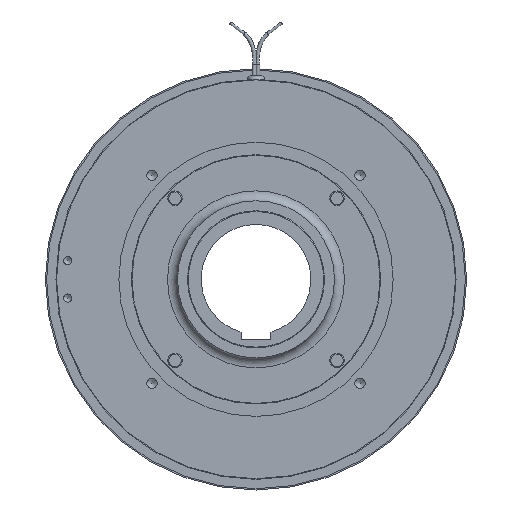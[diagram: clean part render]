
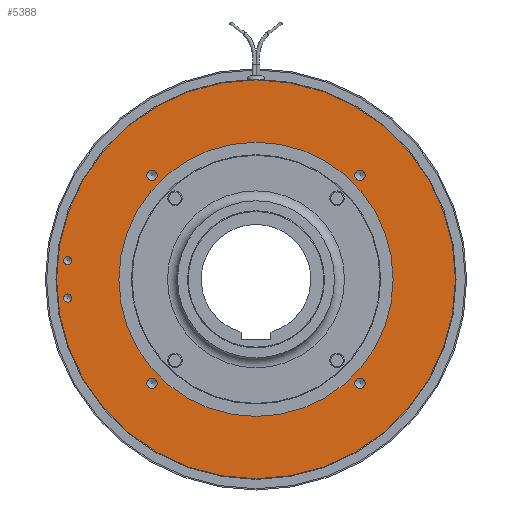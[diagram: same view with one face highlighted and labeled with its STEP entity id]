
A CAD part, left-side view. The second image highlights one B-rep face of the part: STEP entity #5388.
In plain terms, the highlighted planar face has unit normal (-1, 0, 0).
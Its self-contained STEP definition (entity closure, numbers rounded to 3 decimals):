
#876=FACE_BOUND('',#1525,.T.);
#877=FACE_BOUND('',#1526,.T.);
#878=FACE_BOUND('',#1527,.T.);
#879=FACE_BOUND('',#1528,.T.);
#880=FACE_BOUND('',#1529,.T.);
#881=FACE_BOUND('',#1530,.T.);
#882=FACE_BOUND('',#1531,.T.);
#1144=FACE_OUTER_BOUND('',#1524,.T.);
#1524=EDGE_LOOP('',(#4827,#4828,#4829));
#1525=EDGE_LOOP('',(#4830,#4831));
#1526=EDGE_LOOP('',(#4832,#4833));
#1527=EDGE_LOOP('',(#4834,#4835));
#1528=EDGE_LOOP('',(#4836,#4837));
#1529=EDGE_LOOP('',(#4838,#4839));
#1530=EDGE_LOOP('',(#4840,#4841));
#1531=EDGE_LOOP('',(#4842,#4843));
#1986=CIRCLE('',#6113,80.);
#1987=CIRCLE('',#6114,80.);
#1988=CIRCLE('',#6116,80.);
#2004=CIRCLE('',#6139,55.);
#2005=CIRCLE('',#6140,55.);
#2006=CIRCLE('',#6142,1.621);
#2007=CIRCLE('',#6143,1.621);
#2008=CIRCLE('',#6144,1.621);
#2009=CIRCLE('',#6145,1.621);
#2010=CIRCLE('',#6146,2.067);
#2011=CIRCLE('',#6147,2.067);
#2012=CIRCLE('',#6148,2.067);
#2013=CIRCLE('',#6149,2.067);
#2014=CIRCLE('',#6150,2.067);
#2015=CIRCLE('',#6151,2.067);
#2016=CIRCLE('',#6152,2.067);
#2017=CIRCLE('',#6153,2.067);
#2540=VERTEX_POINT('',#9663);
#2541=VERTEX_POINT('',#9665);
#2542=VERTEX_POINT('',#9667);
#2560=VERTEX_POINT('',#9753);
#2561=VERTEX_POINT('',#9754);
#2562=VERTEX_POINT('',#9759);
#2563=VERTEX_POINT('',#9760);
#2564=VERTEX_POINT('',#9763);
#2565=VERTEX_POINT('',#9764);
#2566=VERTEX_POINT('',#9767);
#2567=VERTEX_POINT('',#9768);
#2568=VERTEX_POINT('',#9771);
#2569=VERTEX_POINT('',#9772);
#2570=VERTEX_POINT('',#9775);
#2571=VERTEX_POINT('',#9776);
#2572=VERTEX_POINT('',#9779);
#2573=VERTEX_POINT('',#9780);
#3300=EDGE_CURVE('',#2541,#2540,#1986,.T.);
#3301=EDGE_CURVE('',#2542,#2541,#1987,.T.);
#3307=EDGE_CURVE('',#2540,#2542,#1988,.T.);
#3326=EDGE_CURVE('',#2560,#2561,#2004,.T.);
#3328=EDGE_CURVE('',#2561,#2560,#2005,.T.);
#3329=EDGE_CURVE('',#2562,#2563,#2006,.T.);
#3330=EDGE_CURVE('',#2563,#2562,#2007,.T.);
#3331=EDGE_CURVE('',#2564,#2565,#2008,.T.);
#3332=EDGE_CURVE('',#2565,#2564,#2009,.T.);
#3333=EDGE_CURVE('',#2566,#2567,#2010,.T.);
#3334=EDGE_CURVE('',#2567,#2566,#2011,.T.);
#3335=EDGE_CURVE('',#2568,#2569,#2012,.T.);
#3336=EDGE_CURVE('',#2569,#2568,#2013,.T.);
#3337=EDGE_CURVE('',#2570,#2571,#2014,.T.);
#3338=EDGE_CURVE('',#2571,#2570,#2015,.T.);
#3339=EDGE_CURVE('',#2572,#2573,#2016,.T.);
#3340=EDGE_CURVE('',#2573,#2572,#2017,.T.);
#4827=ORIENTED_EDGE('',*,*,#3300,.T.);
#4828=ORIENTED_EDGE('',*,*,#3307,.T.);
#4829=ORIENTED_EDGE('',*,*,#3301,.T.);
#4830=ORIENTED_EDGE('',*,*,#3329,.T.);
#4831=ORIENTED_EDGE('',*,*,#3330,.T.);
#4832=ORIENTED_EDGE('',*,*,#3331,.T.);
#4833=ORIENTED_EDGE('',*,*,#3332,.T.);
#4834=ORIENTED_EDGE('',*,*,#3333,.T.);
#4835=ORIENTED_EDGE('',*,*,#3334,.T.);
#4836=ORIENTED_EDGE('',*,*,#3335,.T.);
#4837=ORIENTED_EDGE('',*,*,#3336,.T.);
#4838=ORIENTED_EDGE('',*,*,#3337,.T.);
#4839=ORIENTED_EDGE('',*,*,#3338,.T.);
#4840=ORIENTED_EDGE('',*,*,#3339,.T.);
#4841=ORIENTED_EDGE('',*,*,#3340,.T.);
#4842=ORIENTED_EDGE('',*,*,#3326,.F.);
#4843=ORIENTED_EDGE('',*,*,#3328,.F.);
#5022=PLANE('',#6141);
#5388=ADVANCED_FACE('',(#1144,#876,#877,#878,#879,#880,#881,#882),#5022,
 .T.);
#6113=AXIS2_PLACEMENT_3D('',#9666,#7800,#7801);
#6114=AXIS2_PLACEMENT_3D('',#9668,#7802,#7803);
#6116=AXIS2_PLACEMENT_3D('',#9713,#7809,#7810);
#6139=AXIS2_PLACEMENT_3D('',#9755,#7858,#7859);
#6140=AXIS2_PLACEMENT_3D('',#9757,#7861,#7862);
#6141=AXIS2_PLACEMENT_3D('',#9758,#7863,#7864);
#6142=AXIS2_PLACEMENT_3D('',#9761,#7865,#7866);
#6143=AXIS2_PLACEMENT_3D('',#9762,#7867,#7868);
#6144=AXIS2_PLACEMENT_3D('',#9765,#7869,#7870);
#6145=AXIS2_PLACEMENT_3D('',#9766,#7871,#7872);
#6146=AXIS2_PLACEMENT_3D('',#9769,#7873,#7874);
#6147=AXIS2_PLACEMENT_3D('',#9770,#7875,#7876);
#6148=AXIS2_PLACEMENT_3D('',#9773,#7877,#7878);
#6149=AXIS2_PLACEMENT_3D('',#9774,#7879,#7880);
#6150=AXIS2_PLACEMENT_3D('',#9777,#7881,#7882);
#6151=AXIS2_PLACEMENT_3D('',#9778,#7883,#7884);
#6152=AXIS2_PLACEMENT_3D('',#9781,#7885,#7886);
#6153=AXIS2_PLACEMENT_3D('',#9782,#7887,#7888);
#7800=DIRECTION('center_axis',(-1.,0.,0.));
#7801=DIRECTION('ref_axis',(0.,1.,0.));
#7802=DIRECTION('center_axis',(-1.,0.,0.));
#7803=DIRECTION('ref_axis',(0.,1.,0.));
#7809=DIRECTION('center_axis',(-1.,0.,0.));
#7810=DIRECTION('ref_axis',(0.,1.,0.));
#7858=DIRECTION('center_axis',(-1.,0.,0.));
#7859=DIRECTION('ref_axis',(0.,1.,0.));
#7861=DIRECTION('center_axis',(-1.,0.,0.));
#7862=DIRECTION('ref_axis',(0.,1.,0.));
#7863=DIRECTION('center_axis',(-1.,0.,0.));
#7864=DIRECTION('ref_axis',(0.,0.,
1.));
#7865=DIRECTION('center_axis',(1.,0.,0.));
#7866=DIRECTION('ref_axis',(0.,0.,
1.));
#7867=DIRECTION('center_axis',(1.,0.,0.));
#7868=DIRECTION('ref_axis',(0.,0.,
1.));
#7869=DIRECTION('center_axis',(1.,0.,0.));
#7870=DIRECTION('ref_axis',(0.,0.,
1.));
#7871=DIRECTION('center_axis',(1.,0.,0.));
#7872=DIRECTION('ref_axis',(0.,0.,
1.));
#7873=DIRECTION('center_axis',(1.,0.,0.));
#7874=DIRECTION('ref_axis',(0.,0.,
1.));
#7875=DIRECTION('center_axis',(1.,0.,0.));
#7876=DIRECTION('ref_axis',(0.,0.,
1.));
#7877=DIRECTION('center_axis',(1.,0.,0.));
#7878=DIRECTION('ref_axis',(0.,0.,
1.));
#7879=DIRECTION('center_axis',(1.,0.,0.));
#7880=DIRECTION('ref_axis',(0.,0.,
1.));
#7881=DIRECTION('center_axis',(1.,0.,0.));
#7882=DIRECTION('ref_axis',(0.,0.,
1.));
#7883=DIRECTION('center_axis',(1.,0.,0.));
#7884=DIRECTION('ref_axis',(0.,0.,
1.));
#7885=DIRECTION('center_axis',(1.,0.,0.));
#7886=DIRECTION('ref_axis',(0.,0.,
1.));
#7887=DIRECTION('center_axis',(1.,0.,0.));
#7888=DIRECTION('ref_axis',(0.,0.,
1.));
#9663=CARTESIAN_POINT('',(-17.1,-80.,0.));
#9665=CARTESIAN_POINT('',(-17.1,80.,0.));
#9666=CARTESIAN_POINT('Origin',(-17.1,0.,0.));
#9667=CARTESIAN_POINT('',(-17.1,0.,80.));
#9668=CARTESIAN_POINT('Origin',(-17.1,0.,0.));
#9713=CARTESIAN_POINT('Origin',(-17.1,0.,0.));
#9753=CARTESIAN_POINT('',(-17.1,55.,0.));
#9754=CARTESIAN_POINT('',(-17.1,-55.,0.));
#9755=CARTESIAN_POINT('Origin',(-17.1,0.,0.));
#9757=CARTESIAN_POINT('Origin',(-17.1,0.,0.));
#9758=CARTESIAN_POINT('Origin',(-17.1,67.5,0.));
#9759=CARTESIAN_POINT('',(-17.1,75.5,9.121));
#9760=CARTESIAN_POINT('',(-17.1,75.5,5.879));
#9761=CARTESIAN_POINT('Origin',(-17.1,75.5,7.5));
#9762=CARTESIAN_POINT('Origin',(-17.1,75.5,7.5));
#9763=CARTESIAN_POINT('',(-17.1,75.5,-5.879));
#9764=CARTESIAN_POINT('',(-17.1,75.5,-9.121));
#9765=CARTESIAN_POINT('Origin',(-17.1,75.5,-7.5));
#9766=CARTESIAN_POINT('Origin',(-17.1,75.5,-7.5));
#9767=CARTESIAN_POINT('',(-17.1,41.719,43.786));
#9768=CARTESIAN_POINT('',(-17.1,41.719,39.652));
#9769=CARTESIAN_POINT('Origin',(-17.1,41.719,41.719));
#9770=CARTESIAN_POINT('Origin',(-17.1,41.719,41.719));
#9771=CARTESIAN_POINT('',(-17.1,-41.719,43.786));
#9772=CARTESIAN_POINT('',(-17.1,-41.719,39.652));
#9773=CARTESIAN_POINT('Origin',(-17.1,-41.719,41.719));
#9774=CARTESIAN_POINT('Origin',(-17.1,-41.719,41.719));
#9775=CARTESIAN_POINT('',(-17.1,-41.719,-39.652));
#9776=CARTESIAN_POINT('',(-17.1,-41.719,-43.786));
#9777=CARTESIAN_POINT('Origin',(-17.1,-41.719,-41.719));
#9778=CARTESIAN_POINT('Origin',(-17.1,-41.719,-41.719));
#9779=CARTESIAN_POINT('',(-17.1,41.719,-39.652));
#9780=CARTESIAN_POINT('',(-17.1,41.719,-43.786));
#9781=CARTESIAN_POINT('Origin',(-17.1,41.719,-41.719));
#9782=CARTESIAN_POINT('Origin',(-17.1,41.719,-41.719));
